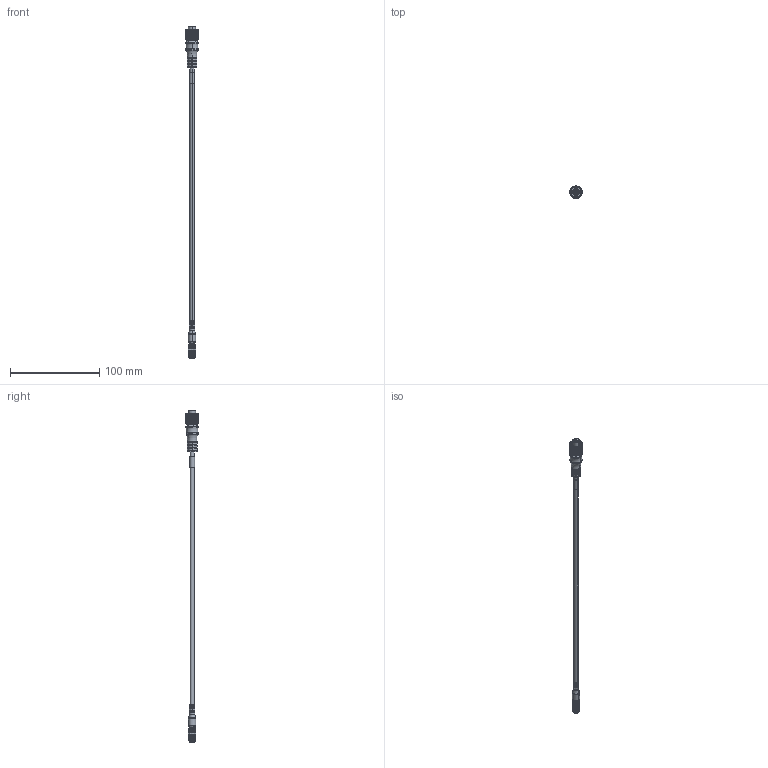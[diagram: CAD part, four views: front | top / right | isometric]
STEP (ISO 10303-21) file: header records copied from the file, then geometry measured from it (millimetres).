
FILE_DESCRIPTION((''),'2;1');
FILE_NAME('889D-F4HBPM-2_ASM','2015-03-24T',('20040676'),('Rockwell Automation'),'PRO/ENGINEER BY PARAMETRIC TECHNOLOGY CORPORATION, 2009140','PRO/ENGINEER BY PARAMETRIC TECHNOLOGY CORPORATION, 2009140','');
FILE_SCHEMA(('CONFIG_CONTROL_DESIGN'));
Length unit declared in the file: inch
Products named in the file (3): 889D-F4-STRAIGHT-FEMALE; STARIGHT_MALE_4PIN; 889D-F4HBPM-2_ASM
Assembly tree (2 placements, depth 2):
  889D-F4HBPM-2_ASM
    889D-F4-STRAIGHT-FEMALE
    STARIGHT_MALE_4PIN
Bounding box: 14 x 14.25 x 371.7 mm (x, y, z)
Volume: 10825.5 mm3; surface area: 9101.9 mm2
Topology: 3 solids, 3 shells, 944 faces, 2277 edges, 1369 vertices
Faces by surface type: plane 435, cylinder 361, cone 100, torus 48
Entity records: 28229 total; most frequent: CARTESIAN_POINT 5946, DIRECTION 4879, ORIENTED_EDGE 4554, EDGE_CURVE 2277, AXIS2_PLACEMENT_3D 1876, VERTEX_POINT 1369, VECTOR 1127, LINE 1127
